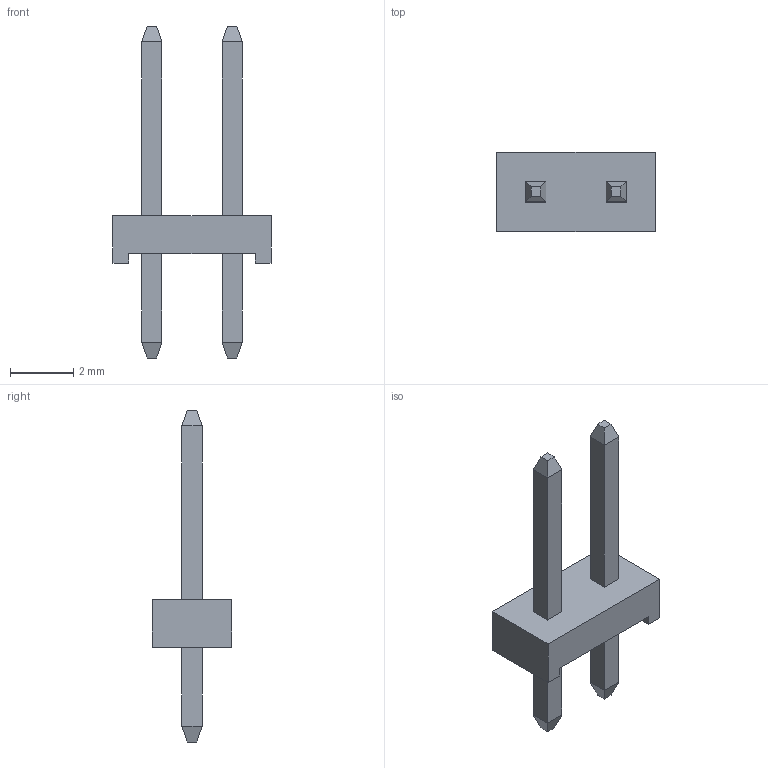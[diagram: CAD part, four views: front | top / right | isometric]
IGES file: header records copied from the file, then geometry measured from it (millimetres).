
Start section: SolidWorks IGES file using analytic representation for surfaces
Bounding box: 5 x 2.5 x 10.5 mm (x, y, z)
Surface area: 91.8 mm2 (no closed solid volume)
Topology: 0 solids, 0 shells, 46 faces, 208 edges, 208 vertices
Faces by surface type: bspline 46
